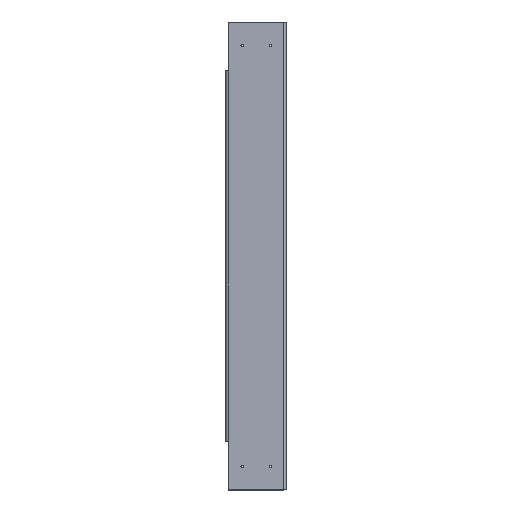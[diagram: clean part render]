
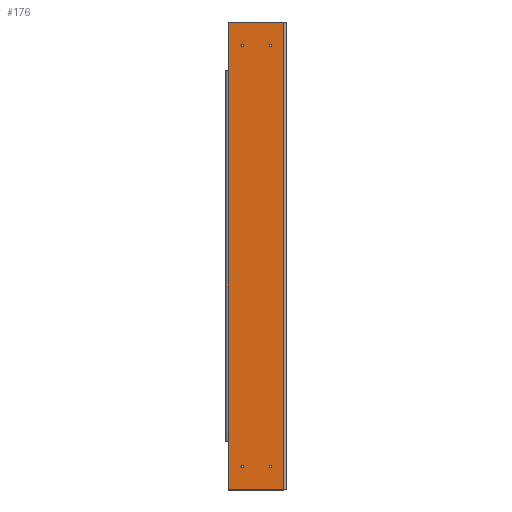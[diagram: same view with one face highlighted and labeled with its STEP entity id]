
A CAD part, top view. The second image highlights one B-rep face of the part: STEP entity #176.
In plain terms, the highlighted planar face has unit normal (0, 0, 1).
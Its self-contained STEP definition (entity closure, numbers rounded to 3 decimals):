
#59=CARTESIAN_POINT('',(1580.,3593.5,7.5));
#60=DIRECTION('',(-0.,-0.,1.));
#61=DIRECTION('',(0.,1.,0.));
#62=AXIS2_PLACEMENT_3D('',#59,#60,#61);
#63=PLANE('',#62);
#64=CARTESIAN_POINT('',(1530.,3630.9,7.5));
#65=VERTEX_POINT('',#64);
#66=CARTESIAN_POINT('',(1530.,3633.5,7.5));
#67=DIRECTION('',(-0.,-0.,1.));
#68=DIRECTION('',(0.,-1.,-0.));
#69=AXIS2_PLACEMENT_3D('',#66,#67,#68);
#70=CIRCLE('',#69,2.6);
#71=EDGE_CURVE('',#65,#65,#70,.T.);
#72=ORIENTED_EDGE('',*,*,#71,.F.);
#73=EDGE_LOOP('',(#72));
#74=FACE_BOUND('',#73,.T.);
#75=CARTESIAN_POINT('',(1590.,3630.9,7.5));
#76=VERTEX_POINT('',#75);
#77=CARTESIAN_POINT('',(1590.,3633.5,7.5));
#78=DIRECTION('',(-0.,-0.,1.));
#79=DIRECTION('',(0.,-1.,-0.));
#80=AXIS2_PLACEMENT_3D('',#77,#78,#79);
#81=CIRCLE('',#80,2.6);
#82=EDGE_CURVE('',#76,#76,#81,.T.);
#83=ORIENTED_EDGE('',*,*,#82,.F.);
#84=EDGE_LOOP('',(#83));
#85=FACE_BOUND('',#84,.T.);
#86=CARTESIAN_POINT('',(1590.,4530.9,7.5));
#87=VERTEX_POINT('',#86);
#88=CARTESIAN_POINT('',(1590.,4533.5,7.5));
#89=DIRECTION('',(-0.,-0.,1.));
#90=DIRECTION('',(0.,-1.,-0.));
#91=AXIS2_PLACEMENT_3D('',#88,#89,#90);
#92=CIRCLE('',#91,2.6);
#93=EDGE_CURVE('',#87,#87,#92,.T.);
#94=ORIENTED_EDGE('',*,*,#93,.F.);
#95=EDGE_LOOP('',(#94));
#96=FACE_BOUND('',#95,.T.);
#97=CARTESIAN_POINT('',(1530.,4530.9,7.5));
#98=VERTEX_POINT('',#97);
#99=CARTESIAN_POINT('',(1530.,4533.5,7.5));
#100=DIRECTION('',(-0.,-0.,1.));
#101=DIRECTION('',(0.,-1.,-0.));
#102=AXIS2_PLACEMENT_3D('',#99,#100,#101);
#103=CIRCLE('',#102,2.6);
#104=EDGE_CURVE('',#98,#98,#103,.T.);
#105=ORIENTED_EDGE('',*,*,#104,.F.);
#106=EDGE_LOOP('',(#105));
#107=FACE_BOUND('',#106,.T.);
#108=CARTESIAN_POINT('',(1500.,4479.5,7.5));
#109=VERTEX_POINT('',#108);
#110=CARTESIAN_POINT('',(1500.,4582.5,7.5));
#111=VERTEX_POINT('',#110);
#112=CARTESIAN_POINT('',(1500.,4479.5,7.5));
#113=DIRECTION('',(0.,1.,0.));
#114=VECTOR('',#113,103.);
#115=LINE('',#112,#114);
#116=EDGE_CURVE('',#109,#111,#115,.T.);
#117=ORIENTED_EDGE('',*,*,#116,.F.);
#118=CARTESIAN_POINT('',(1500.,3687.5,7.5));
#119=VERTEX_POINT('',#118);
#120=CARTESIAN_POINT('',(1500.,4479.5,7.5));
#121=DIRECTION('',(-0.,-1.,-0.));
#122=VECTOR('',#121,792.);
#123=LINE('',#120,#122);
#124=EDGE_CURVE('',#109,#119,#123,.T.);
#125=ORIENTED_EDGE('',*,*,#124,.T.);
#126=CARTESIAN_POINT('',(1500.,3584.5,7.5));
#127=VERTEX_POINT('',#126);
#128=CARTESIAN_POINT('',(1500.,3687.5,7.5));
#129=DIRECTION('',(0.,-1.,-0.));
#130=VECTOR('',#129,103.);
#131=LINE('',#128,#130);
#132=EDGE_CURVE('',#119,#127,#131,.T.);
#133=ORIENTED_EDGE('',*,*,#132,.T.);
#134=CARTESIAN_POINT('',(1501.,3583.5,7.5));
#135=VERTEX_POINT('',#134);
#136=CARTESIAN_POINT('',(1501.,3584.5,7.5));
#137=DIRECTION('',(-0.,-0.,1.));
#138=DIRECTION('',(0.,-1.,-0.));
#139=AXIS2_PLACEMENT_3D('',#136,#137,#138);
#140=CIRCLE('',#139,1.);
#141=EDGE_CURVE('',#127,#135,#140,.T.);
#142=ORIENTED_EDGE('',*,*,#141,.T.);
#143=CARTESIAN_POINT('',(1619.,3583.5,7.5));
#144=VERTEX_POINT('',#143);
#145=CARTESIAN_POINT('',(1619.,3583.5,7.5));
#146=DIRECTION('',(-1.,0.,0.));
#147=VECTOR('',#146,118.);
#148=LINE('',#145,#147);
#149=EDGE_CURVE('',#144,#135,#148,.T.);
#150=ORIENTED_EDGE('',*,*,#149,.F.);
#151=CARTESIAN_POINT('',(1619.,4583.5,7.5));
#152=VERTEX_POINT('',#151);
#153=CARTESIAN_POINT('',(1619.,3583.5,7.5));
#154=DIRECTION('',(0.,1.,0.));
#155=VECTOR('',#154,1000.);
#156=LINE('',#153,#155);
#157=EDGE_CURVE('',#144,#152,#156,.T.);
#158=ORIENTED_EDGE('',*,*,#157,.T.);
#159=CARTESIAN_POINT('',(1501.,4583.5,7.5));
#160=VERTEX_POINT('',#159);
#161=CARTESIAN_POINT('',(1619.,4583.5,7.5));
#162=DIRECTION('',(-1.,0.,0.));
#163=VECTOR('',#162,118.);
#164=LINE('',#161,#163);
#165=EDGE_CURVE('',#152,#160,#164,.T.);
#166=ORIENTED_EDGE('',*,*,#165,.T.);
#167=CARTESIAN_POINT('',(1501.,4582.5,7.5));
#168=DIRECTION('',(-0.,-0.,1.));
#169=DIRECTION('',(0.,-1.,-0.));
#170=AXIS2_PLACEMENT_3D('',#167,#168,#169);
#171=CIRCLE('',#170,1.);
#172=EDGE_CURVE('',#160,#111,#171,.T.);
#173=ORIENTED_EDGE('',*,*,#172,.T.);
#174=EDGE_LOOP('',(#117,#125,#133,#142,#150,#158,#166,#173));
#175=FACE_BOUND('',#174,.T.);
#176=ADVANCED_FACE('',(#74,#85,#96,#107,#175),#63,.T.);
